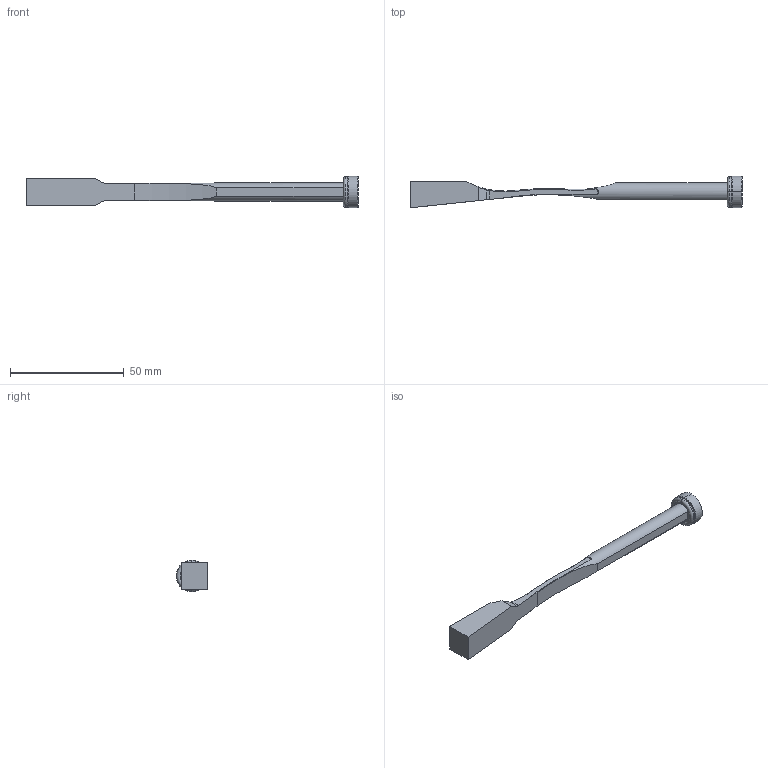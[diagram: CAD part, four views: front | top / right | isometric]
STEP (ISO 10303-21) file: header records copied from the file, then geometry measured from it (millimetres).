
FILE_DESCRIPTION (( 'STEP AP214' ), '1' );
FILE_NAME ('PW081225-TANCADA.STEP', '2020-02-10T08:46:54', ( '' ), ( '' ), 'SwSTEP 2.0', 'SolidWorks 2018', '' );
FILE_SCHEMA (( 'AUTOMOTIVE_DESIGN' ));
Length unit declared in the file: millimetre
Products named in the file (5): 3JT9.5X2X13.5; PW081225-TANCADA; 9FP1406M5; 1DIN7984516_DIN 7984 - M5 x 16 --- 16C; 9PW081225 TANCADA
Assembly tree (4 placements, depth 2):
  PW081225-TANCADA
    9PW081225 TANCADA
    9FP1406M5
    1DIN7984516_DIN 7984 - M5 x 16 --- 16C
    3JT9.5X2X13.5
Bounding box: 146 x 13.9 x 13.8 mm (x, y, z)
Volume: 8264.3 mm3; surface area: 5937.1 mm2
Topology: 4 solids, 4 shells, 94 faces, 217 edges, 130 vertices
Faces by surface type: plane 34, cylinder 20, cone 16, torus 16, bspline 8
Entity records: 3249 total; most frequent: CARTESIAN_POINT 904, DIRECTION 439, ORIENTED_EDGE 426, EDGE_CURVE 213, AXIS2_PLACEMENT_3D 179, VERTEX_POINT 130, EDGE_LOOP 101, FACE_OUTER_BOUND 94
